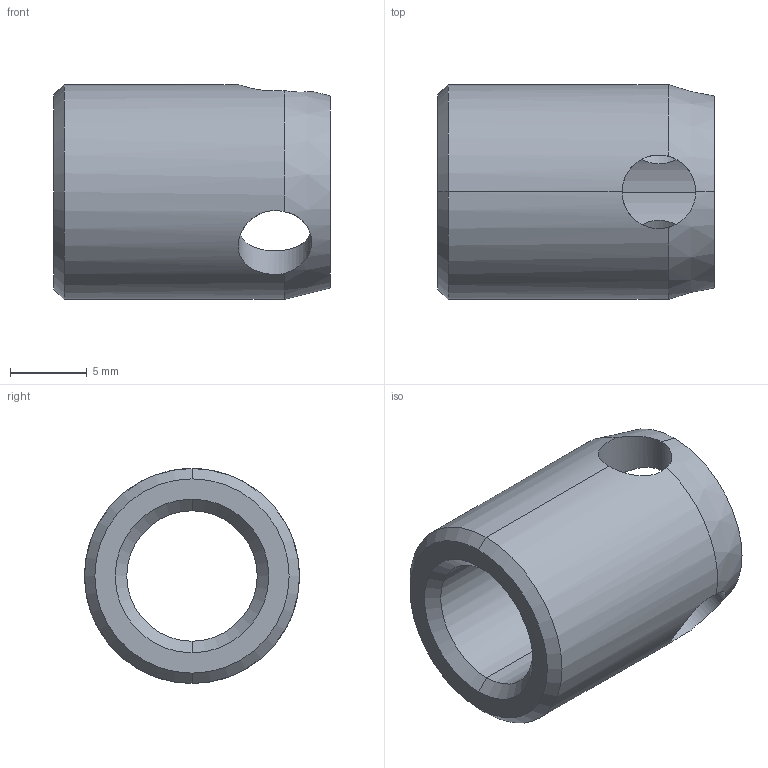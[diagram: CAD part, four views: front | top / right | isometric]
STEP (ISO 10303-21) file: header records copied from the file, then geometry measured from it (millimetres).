
FILE_DESCRIPTION (( 'STEP AP203' ), '1' );
FILE_NAME ('FSUK-SCRS-M10-18.STEP', '2021-08-05T12:58:37', ( '' ), ( '' ), 'SwSTEP 2.0', 'SolidWorks 2021', '' );
FILE_SCHEMA (( 'CONFIG_CONTROL_DESIGN' ));
Length unit declared in the file: millimetre
Products named in the file (1): FSUK-SCRS-M10-18
Bounding box: 18 x 14 x 14 mm (x, y, z)
Volume: 1526.4 mm3; surface area: 1405.5 mm2
Topology: 1 solids, 1 shells, 20 faces, 55 edges, 33 vertices
Faces by surface type: cylinder 10, cone 8, plane 2
Entity records: 1022 total; most frequent: CARTESIAN_POINT 445, ORIENTED_EDGE 110, DIRECTION 97, EDGE_CURVE 55, AXIS2_PLACEMENT_3D 39, VERTEX_POINT 33, EDGE_LOOP 24, ADVANCED_FACE 20
